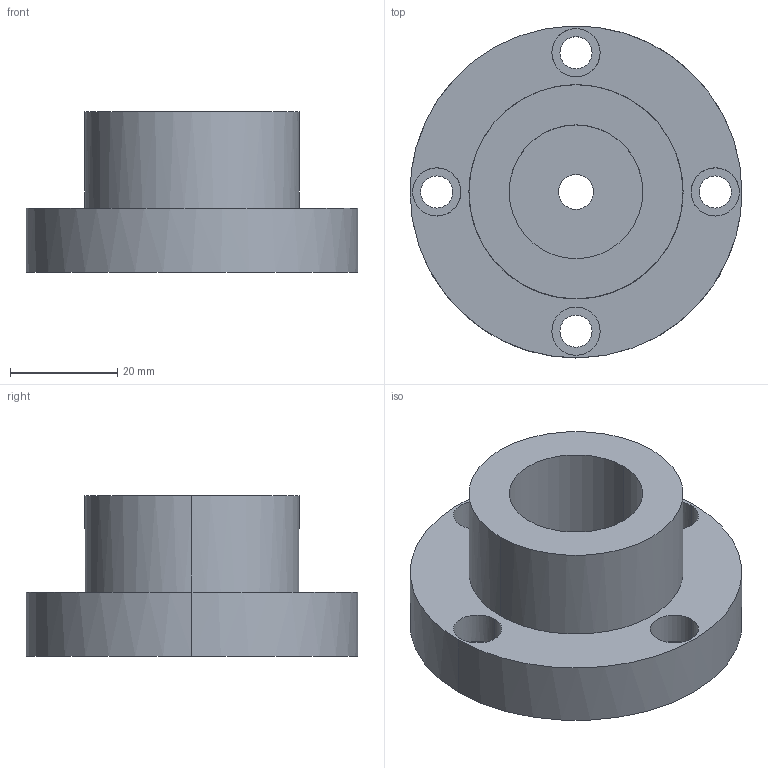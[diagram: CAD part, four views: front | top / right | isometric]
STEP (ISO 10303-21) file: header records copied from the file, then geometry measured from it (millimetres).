
FILE_DESCRIPTION(('CATIA V5 STEP Exchange'),'2;1');
FILE_NAME('D:\姚明阳\1、工装图纸\气囊线机加工零件\LS240505.stp','2024-05-31T02:56:31+00:00',('none'),('none'),'CATIA Version 5 Release 21 GA (IN-10)','CATIA V5 STEP AP214','none');
FILE_SCHEMA(('AUTOMOTIVE_DESIGN { 1 0 10303 214 1 1 1 1 }'));
Length unit declared in the file: millimetre
Products named in the file (1): Part1
Bounding box: 62 x 62 x 30 mm (x, y, z)
Volume: 47409 mm3; surface area: 13134.6 mm2
Topology: 1 solids, 1 shells, 32 faces, 72 edges, 48 vertices
Faces by surface type: cylinder 24, plane 8
Entity records: 958 total; most frequent: CARTESIAN_POINT 277, ORIENTED_EDGE 144, DIRECTION 94, EDGE_CURVE 72, AXIS2_PLACEMENT_3D 55, EDGE_LOOP 48, VERTEX_POINT 48, CIRCLE 38
